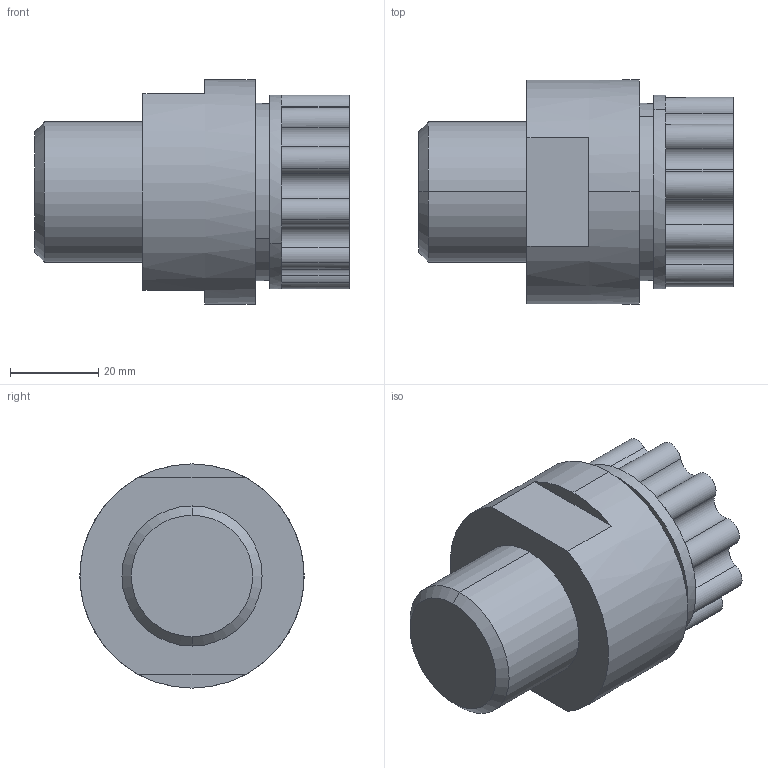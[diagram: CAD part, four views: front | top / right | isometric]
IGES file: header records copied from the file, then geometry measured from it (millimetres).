
Start section: SolidWorks IGES file using analytic representation for surfaces
Global section: file name: S:\Product Visuals\Defeatured Models and Parts Library\Parts Library IGES & STEP\Liquid Fittings\Front Mount liquid Fittings\Synchro Flare\60LPM\Fitting Synchro-Flare 16.IGS; native system: SolidWorks 2012; preprocessor: SolidWorks 2012; author: rachel.dressel; date: 120926.133213; units: inch
Bounding box: 71.19 x 50.8 x 50.8 mm (x, y, z)
Volume: 93548.6 mm3; surface area: 14631.2 mm2
Topology: 1 solids, 1 shells, 59 faces, 147 edges, 94 vertices
Faces by surface type: revolution 39, plane 20
